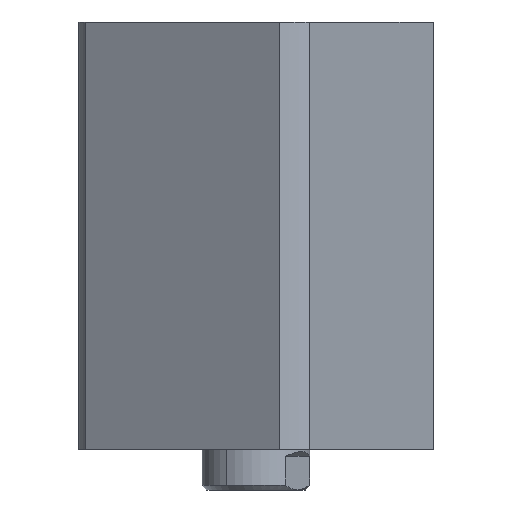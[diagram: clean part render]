
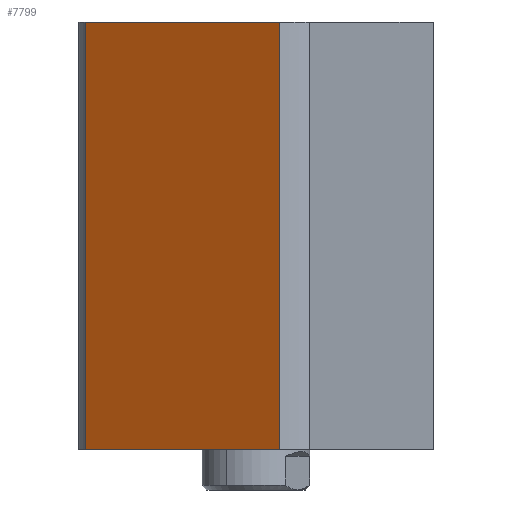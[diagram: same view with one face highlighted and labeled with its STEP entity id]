
A CAD part, left-side view. The second image highlights one B-rep face of the part: STEP entity #7799.
In plain terms, the highlighted planar face has unit normal (-0.843, 0.538, 0) as drawn and (1, 0, 0) by its records, which use the part's own axes.
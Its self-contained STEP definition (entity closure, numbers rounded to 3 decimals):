
#359 = DIRECTION ( 'NONE',  ( 0., -1., 0. ) ) ;
#551 = ORIENTED_EDGE ( 'NONE', *, *, #5381, .T. ) ;
#678 = DIRECTION ( 'NONE',  ( 0., 0., 1. ) ) ;
#1427 = CARTESIAN_POINT ( 'NONE',  ( 57., 57., 178. ) ) ;
#1443 = CARTESIAN_POINT ( 'NONE',  ( 57., 47.971, 178. ) ) ;
#1969 = VERTEX_POINT ( 'NONE', #1443 ) ;
#2581 = LINE ( 'NONE', #12839, #11615 ) ;
#3076 = CARTESIAN_POINT ( 'NONE',  ( 57., -47.971, 178. ) ) ;
#3293 = EDGE_CURVE ( 'NONE', #13385, #1969, #3915, .T. ) ;
#3830 = PLANE ( 'NONE',  #7026 ) ;
#3915 = LINE ( 'NONE', #14424, #6667 ) ;
#4378 = EDGE_CURVE ( 'NONE', #9332, #13385, #4648, .T. ) ;
#4648 = LINE ( 'NONE', #13583, #10868 ) ;
#4814 = ORIENTED_EDGE ( 'NONE', *, *, #3293, .F. ) ;
#5229 = VERTEX_POINT ( 'NONE', #12485 ) ;
#5381 = EDGE_CURVE ( 'NONE', #9332, #5229, #2581, .T. ) ;
#5521 = CARTESIAN_POINT ( 'NONE',  ( 57., -47.971, 0. ) ) ;
#5575 = FACE_OUTER_BOUND ( 'NONE', #7785, .T. ) ;
#6228 = DIRECTION ( 'NONE',  ( 0., 1., 0. ) ) ;
#6667 = VECTOR ( 'NONE', #6228, 1000. ) ;
#7026 = AXIS2_PLACEMENT_3D ( 'NONE', #1427, #7426, #359 ) ;
#7426 = DIRECTION ( 'NONE',  ( -1., 0., 0. ) ) ;
#7785 = EDGE_LOOP ( 'NONE', ( #9214, #551, #10325, #4814 ) ) ;
#7799 = ADVANCED_FACE ( 'NONE', ( #5575 ), #3830, .F. ) ;
#8224 = EDGE_CURVE ( 'NONE', #1969, #5229, #10344, .T. ) ;
#9214 = ORIENTED_EDGE ( 'NONE', *, *, #4378, .F. ) ;
#9295 = DIRECTION ( 'NONE',  ( 0., 1., 0. ) ) ;
#9332 = VERTEX_POINT ( 'NONE', #5521 ) ;
#9958 = VECTOR ( 'NONE', #10304, 1000. ) ;
#10304 = DIRECTION ( 'NONE',  ( 0., 0., -1. ) ) ;
#10325 = ORIENTED_EDGE ( 'NONE', *, *, #8224, .F. ) ;
#10344 = LINE ( 'NONE', #12712, #9958 ) ;
#10868 = VECTOR ( 'NONE', #678, 1000. ) ;
#11615 = VECTOR ( 'NONE', #9295, 1000. ) ;
#12485 = CARTESIAN_POINT ( 'NONE',  ( 57., 47.971, 0. ) ) ;
#12712 = CARTESIAN_POINT ( 'NONE',  ( 57., 47.971, -122. ) ) ;
#12839 = CARTESIAN_POINT ( 'NONE',  ( 57., 57., 0. ) ) ;
#13385 = VERTEX_POINT ( 'NONE', #3076 ) ;
#13583 = CARTESIAN_POINT ( 'NONE',  ( 57., -47.971, -122. ) ) ;
#14424 = CARTESIAN_POINT ( 'NONE',  ( 57., 57., 178. ) ) ;
